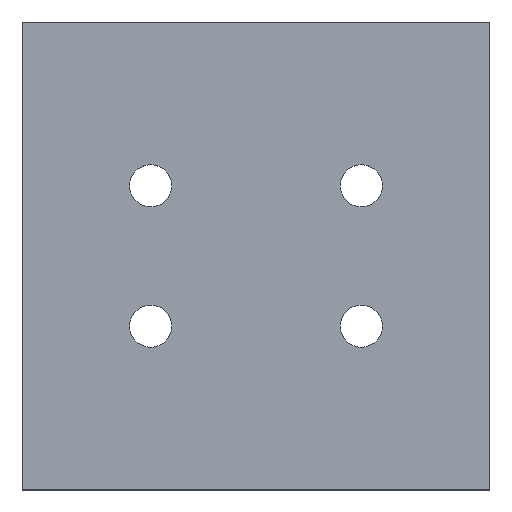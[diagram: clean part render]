
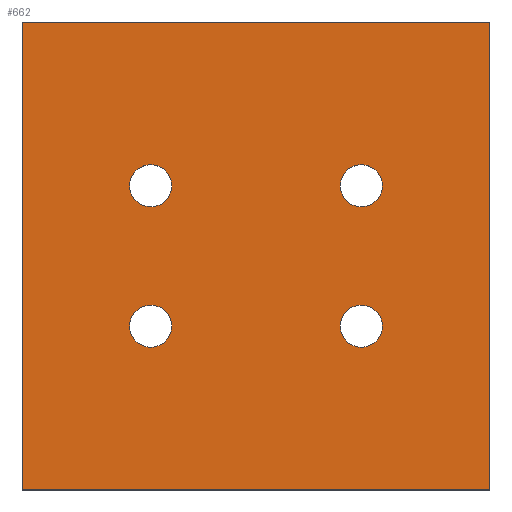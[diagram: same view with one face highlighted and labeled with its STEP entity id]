
A CAD part, top view. The second image highlights one B-rep face of the part: STEP entity #662.
In plain terms, the highlighted planar face has unit normal (0, 0, 1).
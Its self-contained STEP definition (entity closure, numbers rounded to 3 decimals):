
#24 = VERTEX_POINT('',#25);
#25 = CARTESIAN_POINT('',(-100.,-100.,12.));
#32 = PLANE('',#33);
#33 = AXIS2_PLACEMENT_3D('',#34,#35,#36);
#34 = CARTESIAN_POINT('',(-100.,-100.,0.));
#35 = DIRECTION('',(0.,1.,0.));
#36 = DIRECTION('',(1.,0.,0.));
#44 = PLANE('',#45);
#45 = AXIS2_PLACEMENT_3D('',#46,#47,#48);
#46 = CARTESIAN_POINT('',(-100.,100.,0.));
#47 = DIRECTION('',(1.,0.,-0.));
#48 = DIRECTION('',(0.,-1.,0.));
#56 = EDGE_CURVE('',#24,#57,#59,.T.);
#57 = VERTEX_POINT('',#58);
#58 = CARTESIAN_POINT('',(100.,-100.,12.));
#59 = SURFACE_CURVE('',#60,(#64,#71),.PCURVE_S1.);
#60 = LINE('',#61,#62);
#61 = CARTESIAN_POINT('',(-100.,-100.,12.));
#62 = VECTOR('',#63,1.);
#63 = DIRECTION('',(1.,0.,0.));
#64 = PCURVE('',#32,#65);
#65 = DEFINITIONAL_REPRESENTATION('',(#66),#70);
#66 = LINE('',#67,#68);
#67 = CARTESIAN_POINT('',(0.,-12.));
#68 = VECTOR('',#69,1.);
#69 = DIRECTION('',(1.,0.));
#70 = ( GEOMETRIC_REPRESENTATION_CONTEXT(2) 
PARAMETRIC_REPRESENTATION_CONTEXT() REPRESENTATION_CONTEXT('2D SPACE',''
  ) );
#71 = PCURVE('',#72,#77);
#72 = PLANE('',#73);
#73 = AXIS2_PLACEMENT_3D('',#74,#75,#76);
#74 = CARTESIAN_POINT('',(0.,0.,12.));
#75 = DIRECTION('',(0.,0.,1.));
#76 = DIRECTION('',(1.,0.,-0.));
#77 = DEFINITIONAL_REPRESENTATION('',(#78),#82);
#78 = LINE('',#79,#80);
#79 = CARTESIAN_POINT('',(-100.,-100.));
#80 = VECTOR('',#81,1.);
#81 = DIRECTION('',(1.,0.));
#82 = ( GEOMETRIC_REPRESENTATION_CONTEXT(2) 
PARAMETRIC_REPRESENTATION_CONTEXT() REPRESENTATION_CONTEXT('2D SPACE',''
  ) );
#100 = PLANE('',#101);
#101 = AXIS2_PLACEMENT_3D('',#102,#103,#104);
#102 = CARTESIAN_POINT('',(100.,-100.,0.));
#103 = DIRECTION('',(-1.,0.,0.));
#104 = DIRECTION('',(0.,1.,0.));
#142 = EDGE_CURVE('',#57,#143,#145,.T.);
#143 = VERTEX_POINT('',#144);
#144 = CARTESIAN_POINT('',(100.,100.,12.));
#145 = SURFACE_CURVE('',#146,(#150,#157),.PCURVE_S1.);
#146 = LINE('',#147,#148);
#147 = CARTESIAN_POINT('',(100.,-100.,12.));
#148 = VECTOR('',#149,1.);
#149 = DIRECTION('',(0.,1.,0.));
#150 = PCURVE('',#100,#151);
#151 = DEFINITIONAL_REPRESENTATION('',(#152),#156);
#152 = LINE('',#153,#154);
#153 = CARTESIAN_POINT('',(0.,-12.));
#154 = VECTOR('',#155,1.);
#155 = DIRECTION('',(1.,0.));
#156 = ( GEOMETRIC_REPRESENTATION_CONTEXT(2) 
PARAMETRIC_REPRESENTATION_CONTEXT() REPRESENTATION_CONTEXT('2D SPACE',''
  ) );
#157 = PCURVE('',#72,#158);
#158 = DEFINITIONAL_REPRESENTATION('',(#159),#163);
#159 = LINE('',#160,#161);
#160 = CARTESIAN_POINT('',(100.,-100.));
#161 = VECTOR('',#162,1.);
#162 = DIRECTION('',(0.,1.));
#163 = ( GEOMETRIC_REPRESENTATION_CONTEXT(2) 
PARAMETRIC_REPRESENTATION_CONTEXT() REPRESENTATION_CONTEXT('2D SPACE',''
  ) );
#181 = PLANE('',#182);
#182 = AXIS2_PLACEMENT_3D('',#183,#184,#185);
#183 = CARTESIAN_POINT('',(100.,100.,0.));
#184 = DIRECTION('',(0.,-1.,0.));
#185 = DIRECTION('',(-1.,0.,0.));
#218 = EDGE_CURVE('',#143,#219,#221,.T.);
#219 = VERTEX_POINT('',#220);
#220 = CARTESIAN_POINT('',(-100.,100.,12.));
#221 = SURFACE_CURVE('',#222,(#226,#233),.PCURVE_S1.);
#222 = LINE('',#223,#224);
#223 = CARTESIAN_POINT('',(100.,100.,12.));
#224 = VECTOR('',#225,1.);
#225 = DIRECTION('',(-1.,0.,0.));
#226 = PCURVE('',#181,#227);
#227 = DEFINITIONAL_REPRESENTATION('',(#228),#232);
#228 = LINE('',#229,#230);
#229 = CARTESIAN_POINT('',(0.,-12.));
#230 = VECTOR('',#231,1.);
#231 = DIRECTION('',(1.,0.));
#232 = ( GEOMETRIC_REPRESENTATION_CONTEXT(2) 
PARAMETRIC_REPRESENTATION_CONTEXT() REPRESENTATION_CONTEXT('2D SPACE',''
  ) );
#233 = PCURVE('',#72,#234);
#234 = DEFINITIONAL_REPRESENTATION('',(#235),#239);
#235 = LINE('',#236,#237);
#236 = CARTESIAN_POINT('',(100.,100.));
#237 = VECTOR('',#238,1.);
#238 = DIRECTION('',(-1.,0.));
#239 = ( GEOMETRIC_REPRESENTATION_CONTEXT(2) 
PARAMETRIC_REPRESENTATION_CONTEXT() REPRESENTATION_CONTEXT('2D SPACE',''
  ) );
#289 = EDGE_CURVE('',#219,#24,#290,.T.);
#290 = SURFACE_CURVE('',#291,(#295,#302),.PCURVE_S1.);
#291 = LINE('',#292,#293);
#292 = CARTESIAN_POINT('',(-100.,100.,12.));
#293 = VECTOR('',#294,1.);
#294 = DIRECTION('',(0.,-1.,0.));
#295 = PCURVE('',#44,#296);
#296 = DEFINITIONAL_REPRESENTATION('',(#297),#301);
#297 = LINE('',#298,#299);
#298 = CARTESIAN_POINT('',(0.,-12.));
#299 = VECTOR('',#300,1.);
#300 = DIRECTION('',(1.,0.));
#301 = ( GEOMETRIC_REPRESENTATION_CONTEXT(2) 
PARAMETRIC_REPRESENTATION_CONTEXT() REPRESENTATION_CONTEXT('2D SPACE',''
  ) );
#302 = PCURVE('',#72,#303);
#303 = DEFINITIONAL_REPRESENTATION('',(#304),#308);
#304 = LINE('',#305,#306);
#305 = CARTESIAN_POINT('',(-100.,100.));
#306 = VECTOR('',#307,1.);
#307 = DIRECTION('',(0.,-1.));
#308 = ( GEOMETRIC_REPRESENTATION_CONTEXT(2) 
PARAMETRIC_REPRESENTATION_CONTEXT() REPRESENTATION_CONTEXT('2D SPACE',''
  ) );
#338 = VERTEX_POINT('',#339);
#339 = CARTESIAN_POINT('',(-36.,-30.,12.));
#346 = CYLINDRICAL_SURFACE('',#347,9.);
#347 = AXIS2_PLACEMENT_3D('',#348,#349,#350);
#348 = CARTESIAN_POINT('',(-45.,-30.,0.));
#349 = DIRECTION('',(-0.,-0.,-1.));
#350 = DIRECTION('',(1.,0.,-0.));
#365 = EDGE_CURVE('',#338,#338,#366,.T.);
#366 = SURFACE_CURVE('',#367,(#372,#379),.PCURVE_S1.);
#367 = CIRCLE('',#368,9.);
#368 = AXIS2_PLACEMENT_3D('',#369,#370,#371);
#369 = CARTESIAN_POINT('',(-45.,-30.,12.));
#370 = DIRECTION('',(0.,0.,1.));
#371 = DIRECTION('',(1.,0.,-0.));
#372 = PCURVE('',#346,#373);
#373 = DEFINITIONAL_REPRESENTATION('',(#374),#378);
#374 = LINE('',#375,#376);
#375 = CARTESIAN_POINT('',(-0.,-12.));
#376 = VECTOR('',#377,1.);
#377 = DIRECTION('',(-1.,0.));
#378 = ( GEOMETRIC_REPRESENTATION_CONTEXT(2) 
PARAMETRIC_REPRESENTATION_CONTEXT() REPRESENTATION_CONTEXT('2D SPACE',''
  ) );
#379 = PCURVE('',#72,#380);
#380 = DEFINITIONAL_REPRESENTATION('',(#381),#385);
#381 = CIRCLE('',#382,9.);
#382 = AXIS2_PLACEMENT_2D('',#383,#384);
#383 = CARTESIAN_POINT('',(-45.,-30.));
#384 = DIRECTION('',(1.,0.));
#385 = ( GEOMETRIC_REPRESENTATION_CONTEXT(2) 
PARAMETRIC_REPRESENTATION_CONTEXT() REPRESENTATION_CONTEXT('2D SPACE',''
  ) );
#416 = VERTEX_POINT('',#417);
#417 = CARTESIAN_POINT('',(-36.,30.,12.));
#424 = CYLINDRICAL_SURFACE('',#425,9.);
#425 = AXIS2_PLACEMENT_3D('',#426,#427,#428);
#426 = CARTESIAN_POINT('',(-45.,30.,0.));
#427 = DIRECTION('',(-0.,-0.,-1.));
#428 = DIRECTION('',(1.,0.,-0.));
#443 = EDGE_CURVE('',#416,#416,#444,.T.);
#444 = SURFACE_CURVE('',#445,(#450,#457),.PCURVE_S1.);
#445 = CIRCLE('',#446,9.);
#446 = AXIS2_PLACEMENT_3D('',#447,#448,#449);
#447 = CARTESIAN_POINT('',(-45.,30.,12.));
#448 = DIRECTION('',(0.,0.,1.));
#449 = DIRECTION('',(1.,0.,-0.));
#450 = PCURVE('',#424,#451);
#451 = DEFINITIONAL_REPRESENTATION('',(#452),#456);
#452 = LINE('',#453,#454);
#453 = CARTESIAN_POINT('',(-0.,-12.));
#454 = VECTOR('',#455,1.);
#455 = DIRECTION('',(-1.,0.));
#456 = ( GEOMETRIC_REPRESENTATION_CONTEXT(2) 
PARAMETRIC_REPRESENTATION_CONTEXT() REPRESENTATION_CONTEXT('2D SPACE',''
  ) );
#457 = PCURVE('',#72,#458);
#458 = DEFINITIONAL_REPRESENTATION('',(#459),#463);
#459 = CIRCLE('',#460,9.);
#460 = AXIS2_PLACEMENT_2D('',#461,#462);
#461 = CARTESIAN_POINT('',(-45.,30.));
#462 = DIRECTION('',(1.,0.));
#463 = ( GEOMETRIC_REPRESENTATION_CONTEXT(2) 
PARAMETRIC_REPRESENTATION_CONTEXT() REPRESENTATION_CONTEXT('2D SPACE',''
  ) );
#494 = VERTEX_POINT('',#495);
#495 = CARTESIAN_POINT('',(54.,-30.,12.));
#502 = CYLINDRICAL_SURFACE('',#503,9.);
#503 = AXIS2_PLACEMENT_3D('',#504,#505,#506);
#504 = CARTESIAN_POINT('',(45.,-30.,0.));
#505 = DIRECTION('',(-0.,-0.,-1.));
#506 = DIRECTION('',(1.,0.,-0.));
#521 = EDGE_CURVE('',#494,#494,#522,.T.);
#522 = SURFACE_CURVE('',#523,(#528,#535),.PCURVE_S1.);
#523 = CIRCLE('',#524,9.);
#524 = AXIS2_PLACEMENT_3D('',#525,#526,#527);
#525 = CARTESIAN_POINT('',(45.,-30.,12.));
#526 = DIRECTION('',(0.,0.,1.));
#527 = DIRECTION('',(1.,0.,-0.));
#528 = PCURVE('',#502,#529);
#529 = DEFINITIONAL_REPRESENTATION('',(#530),#534);
#530 = LINE('',#531,#532);
#531 = CARTESIAN_POINT('',(-0.,-12.));
#532 = VECTOR('',#533,1.);
#533 = DIRECTION('',(-1.,0.));
#534 = ( GEOMETRIC_REPRESENTATION_CONTEXT(2) 
PARAMETRIC_REPRESENTATION_CONTEXT() REPRESENTATION_CONTEXT('2D SPACE',''
  ) );
#535 = PCURVE('',#72,#536);
#536 = DEFINITIONAL_REPRESENTATION('',(#537),#541);
#537 = CIRCLE('',#538,9.);
#538 = AXIS2_PLACEMENT_2D('',#539,#540);
#539 = CARTESIAN_POINT('',(45.,-30.));
#540 = DIRECTION('',(1.,0.));
#541 = ( GEOMETRIC_REPRESENTATION_CONTEXT(2) 
PARAMETRIC_REPRESENTATION_CONTEXT() REPRESENTATION_CONTEXT('2D SPACE',''
  ) );
#572 = VERTEX_POINT('',#573);
#573 = CARTESIAN_POINT('',(54.,30.,12.));
#580 = CYLINDRICAL_SURFACE('',#581,9.);
#581 = AXIS2_PLACEMENT_3D('',#582,#583,#584);
#582 = CARTESIAN_POINT('',(45.,30.,0.));
#583 = DIRECTION('',(-0.,-0.,-1.));
#584 = DIRECTION('',(1.,0.,-0.));
#599 = EDGE_CURVE('',#572,#572,#600,.T.);
#600 = SURFACE_CURVE('',#601,(#606,#613),.PCURVE_S1.);
#601 = CIRCLE('',#602,9.);
#602 = AXIS2_PLACEMENT_3D('',#603,#604,#605);
#603 = CARTESIAN_POINT('',(45.,30.,12.));
#604 = DIRECTION('',(0.,0.,1.));
#605 = DIRECTION('',(1.,0.,-0.));
#606 = PCURVE('',#580,#607);
#607 = DEFINITIONAL_REPRESENTATION('',(#608),#612);
#608 = LINE('',#609,#610);
#609 = CARTESIAN_POINT('',(-0.,-12.));
#610 = VECTOR('',#611,1.);
#611 = DIRECTION('',(-1.,0.));
#612 = ( GEOMETRIC_REPRESENTATION_CONTEXT(2) 
PARAMETRIC_REPRESENTATION_CONTEXT() REPRESENTATION_CONTEXT('2D SPACE',''
  ) );
#613 = PCURVE('',#72,#614);
#614 = DEFINITIONAL_REPRESENTATION('',(#615),#619);
#615 = CIRCLE('',#616,9.);
#616 = AXIS2_PLACEMENT_2D('',#617,#618);
#617 = CARTESIAN_POINT('',(45.,30.));
#618 = DIRECTION('',(1.,0.));
#619 = ( GEOMETRIC_REPRESENTATION_CONTEXT(2) 
PARAMETRIC_REPRESENTATION_CONTEXT() REPRESENTATION_CONTEXT('2D SPACE',''
  ) );
#662 = ADVANCED_FACE('',(#663,#669,#672,#675,#678),#72,.T.);
#663 = FACE_BOUND('',#664,.T.);
#664 = EDGE_LOOP('',(#665,#666,#667,#668));
#665 = ORIENTED_EDGE('',*,*,#56,.T.);
#666 = ORIENTED_EDGE('',*,*,#142,.T.);
#667 = ORIENTED_EDGE('',*,*,#218,.T.);
#668 = ORIENTED_EDGE('',*,*,#289,.T.);
#669 = FACE_BOUND('',#670,.F.);
#670 = EDGE_LOOP('',(#671));
#671 = ORIENTED_EDGE('',*,*,#365,.T.);
#672 = FACE_BOUND('',#673,.F.);
#673 = EDGE_LOOP('',(#674));
#674 = ORIENTED_EDGE('',*,*,#443,.T.);
#675 = FACE_BOUND('',#676,.F.);
#676 = EDGE_LOOP('',(#677));
#677 = ORIENTED_EDGE('',*,*,#521,.T.);
#678 = FACE_BOUND('',#679,.F.);
#679 = EDGE_LOOP('',(#680));
#680 = ORIENTED_EDGE('',*,*,#599,.T.);
